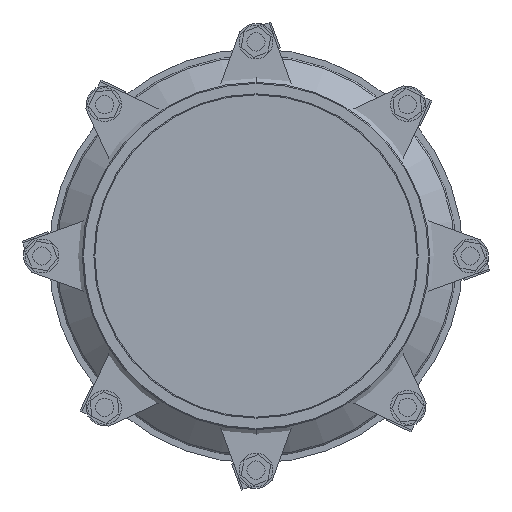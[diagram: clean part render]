
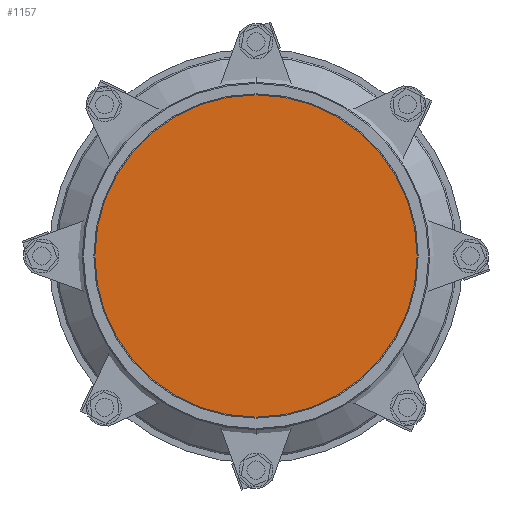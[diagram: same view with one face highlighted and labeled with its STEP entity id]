
A CAD part, left-side view. The second image highlights one B-rep face of the part: STEP entity #1157.
In plain terms, the highlighted planar face has unit normal (-1, 0, 0).
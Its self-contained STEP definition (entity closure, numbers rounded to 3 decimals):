
#1157=ADVANCED_FACE('',(#2554),#2555,.T.);
#2554=FACE_OUTER_BOUND('',#4508,.T.);
#2555=PLANE('',#4509);
#4508=EDGE_LOOP('',(#6740,#6741));
#4509=AXIS2_PLACEMENT_3D('',#6742,#6743,#6744);
#6740=ORIENTED_EDGE('',*,*,#11074,.T.);
#6741=ORIENTED_EDGE('',*,*,#11075,.T.);
#6742=CARTESIAN_POINT('',(-311.5,-183.603,105.999));
#6743=DIRECTION('',(-1.0,0.0,0.));
#6744=DIRECTION('',(0.,0.0,1.0));
#11074=EDGE_CURVE('',#13274,#13275,#13276,.T.);
#11075=EDGE_CURVE('',#13275,#13274,#13277,.T.);
#13274=VERTEX_POINT('',#16209);
#13275=VERTEX_POINT('',#16210);
#13276=CIRCLE('',#16211,189.5);
#13277=CIRCLE('',#16212,189.5);
#16209=CARTESIAN_POINT('',(-311.5,-183.603,-83.501));
#16210=CARTESIAN_POINT('',(-311.5,-183.603,295.499));
#16211=AXIS2_PLACEMENT_3D('',#19197,#19198,#19199);
#16212=AXIS2_PLACEMENT_3D('',#19200,#19201,#19202);
#19197=CARTESIAN_POINT('',(-311.5,-183.603,105.999));
#19198=DIRECTION('',(-1.0,0.0,0.));
#19199=DIRECTION('',(0.,0.0,-1.0));
#19200=CARTESIAN_POINT('',(-311.5,-183.603,105.999));
#19201=DIRECTION('',(-1.0,0.0,0.));
#19202=DIRECTION('',(0.,0.0,-1.0));
